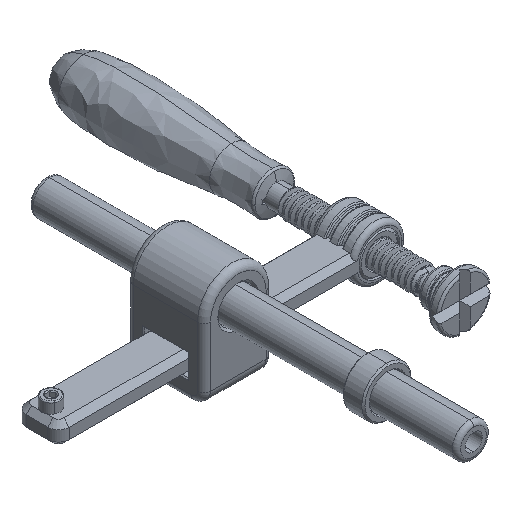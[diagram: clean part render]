
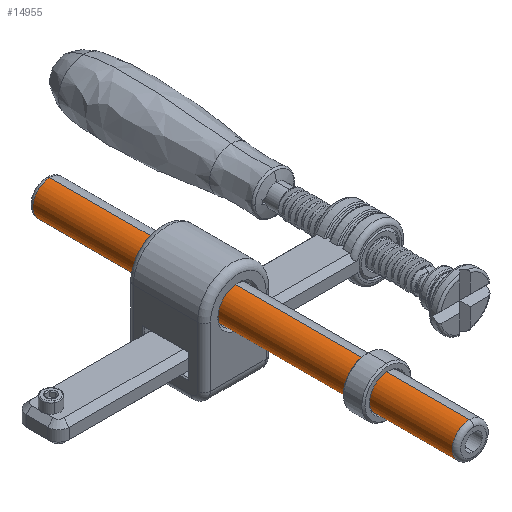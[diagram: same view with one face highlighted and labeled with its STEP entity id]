
A CAD part, isometric view. The second image highlights one B-rep face of the part: STEP entity #14955.
In plain terms, the highlighted cylindrical face has radius 8 mm (diameter 16 mm), a partial arc.
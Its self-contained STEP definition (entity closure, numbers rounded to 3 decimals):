
#368 = CARTESIAN_POINT ( 'NONE',  ( 0., 2., 8. ) ) ;
#727 = CIRCLE ( 'NONE', #10241, 8. ) ;
#964 = VERTEX_POINT ( 'NONE', #368 ) ;
#989 = CYLINDRICAL_SURFACE ( 'NONE', #7511, 8. ) ;
#2652 = AXIS2_PLACEMENT_3D ( 'NONE', #6828, #16242, #8194 ) ;
#3120 = LINE ( 'NONE', #5360, #16727 ) ;
#4031 = CARTESIAN_POINT ( 'NONE',  ( 0., 200., 0. ) ) ;
#5360 = CARTESIAN_POINT ( 'NONE',  ( 0., 200., -8. ) ) ;
#5370 = ORIENTED_EDGE ( 'NONE', *, *, #7708, .T. ) ;
#5761 = VERTEX_POINT ( 'NONE', #17263 ) ;
#6456 = ORIENTED_EDGE ( 'NONE', *, *, #17289, .T. ) ;
#6523 = EDGE_LOOP ( 'NONE', ( #16285, #10372, #6456, #5370 ) ) ;
#6828 = CARTESIAN_POINT ( 'NONE',  ( 0., 198., 0. ) ) ;
#6935 = EDGE_CURVE ( 'NONE', #9237, #9948, #10830, .T. ) ;
#7100 = CARTESIAN_POINT ( 'NONE',  ( 0., 2., 0. ) ) ;
#7511 = AXIS2_PLACEMENT_3D ( 'NONE', #4031, #17549, #12150 ) ;
#7708 = EDGE_CURVE ( 'NONE', #5761, #964, #727, .T. ) ;
#8194 = DIRECTION ( 'NONE',  ( 0., 0., 1. ) ) ;
#8350 = FACE_OUTER_BOUND ( 'NONE', #6523, .T. ) ;
#8450 = DIRECTION ( 'NONE',  ( 0., 0., 1. ) ) ;
#9237 = VERTEX_POINT ( 'NONE', #15559 ) ;
#9948 = VERTEX_POINT ( 'NONE', #14454 ) ;
#10241 = AXIS2_PLACEMENT_3D ( 'NONE', #7100, #16507, #8450 ) ;
#10372 = ORIENTED_EDGE ( 'NONE', *, *, #6935, .T. ) ;
#10830 = CIRCLE ( 'NONE', #2652, 8. ) ;
#11605 = EDGE_CURVE ( 'NONE', #9237, #964, #15601, .T. ) ;
#12150 = DIRECTION ( 'NONE',  ( 0., 0., -1. ) ) ;
#14127 = DIRECTION ( 'NONE',  ( 0., -1., 0. ) ) ;
#14454 = CARTESIAN_POINT ( 'NONE',  ( 0., 198., -8. ) ) ;
#14955 = ADVANCED_FACE ( 'NONE', ( #8350 ), #989, .T. ) ;
#15164 = VECTOR ( 'NONE', #14127, 1000. ) ;
#15559 = CARTESIAN_POINT ( 'NONE',  ( 0., 198., 8. ) ) ;
#15601 = LINE ( 'NONE', #16876, #15164 ) ;
#16242 = DIRECTION ( 'NONE',  ( 0., -1., 0. ) ) ;
#16285 = ORIENTED_EDGE ( 'NONE', *, *, #11605, .F. ) ;
#16507 = DIRECTION ( 'NONE',  ( 0., 1., 0. ) ) ;
#16727 = VECTOR ( 'NONE', #17510, 1000. ) ;
#16876 = CARTESIAN_POINT ( 'NONE',  ( 0., 200., 8. ) ) ;
#17263 = CARTESIAN_POINT ( 'NONE',  ( 0., 2., -8. ) ) ;
#17289 = EDGE_CURVE ( 'NONE', #9948, #5761, #3120, .T. ) ;
#17510 = DIRECTION ( 'NONE',  ( 0., -1., 0. ) ) ;
#17549 = DIRECTION ( 'NONE',  ( 0., -1., 0. ) ) ;
